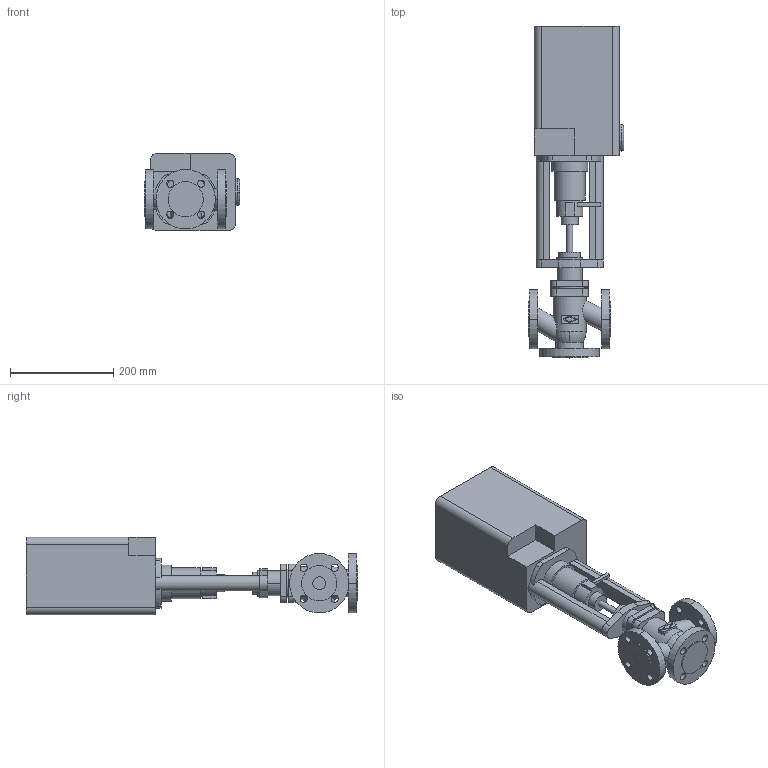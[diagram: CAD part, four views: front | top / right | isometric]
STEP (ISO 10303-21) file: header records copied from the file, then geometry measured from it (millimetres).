
FILE_DESCRIPTION(('OneSpaceDesigner STEP Export'),'2;1');
FILE_NAME('c000002386.stp','2006-09-19T11:55:02',(''),(''),'OneSpace Designer STEP processor for AP214 (Solid Model)','OneSpace Designer 13.20A 18-Aug-2005 (C) CoCreate Software GmbH','');
FILE_SCHEMA(('AUTOMOTIVE_DESIGN { 1 0 10303 214 1 1 1 1 }'));
Length unit declared in the file: millimetre
Products named in the file (2): 1; 2
Bounding box: 184.6 x 643 x 150 mm (x, y, z)
Volume: 7963662.1 mm3; surface area: 420608 mm2
Topology: 2 solids, 2 shells, 192 faces, 486 edges, 323 vertices
Faces by surface type: cylinder 98, plane 90, torus 4
Entity records: 5696 total; most frequent: CARTESIAN_POINT 1253, ORIENTED_EDGE 972, DIRECTION 835, EDGE_CURVE 486, VERTEX_POINT 323, AXIS2_PLACEMENT_3D 290, VECTOR 255, LINE 255
